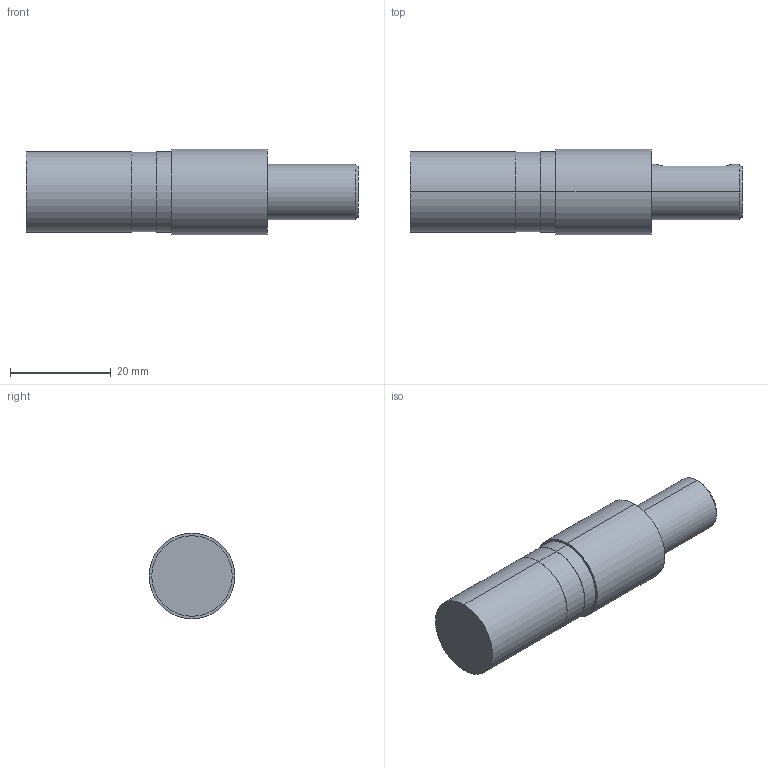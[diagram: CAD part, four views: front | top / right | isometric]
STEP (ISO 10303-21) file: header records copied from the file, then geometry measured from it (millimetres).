
FILE_DESCRIPTION (( 'STEP AP203' ), '1' );
FILE_NAME ('084.800.006.STEP', '2013-01-29T09:15:15', ( 'Alusic' ), ( 'Alusic' ), 'SwSTEP 2.0', 'SolidWorks 2011', '' );
FILE_SCHEMA (( 'CONFIG_CONTROL_DESIGN' ));
Length unit declared in the file: millimetre
Products named in the file (1): 084.800.006
Bounding box: 66 x 17 x 17 mm (x, y, z)
Volume: 11584.2 mm3; surface area: 3757.3 mm2
Topology: 1 solids, 1 shells, 27 faces, 56 edges, 35 vertices
Faces by surface type: cylinder 14, plane 9, cone 4
Entity records: 843 total; most frequent: CARTESIAN_POINT 175, DIRECTION 136, ORIENTED_EDGE 108, AXIS2_PLACEMENT_3D 56, EDGE_CURVE 54, VERTEX_POINT 35, EDGE_LOOP 33, CIRCLE 28
